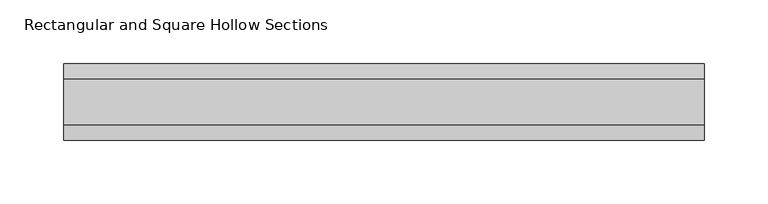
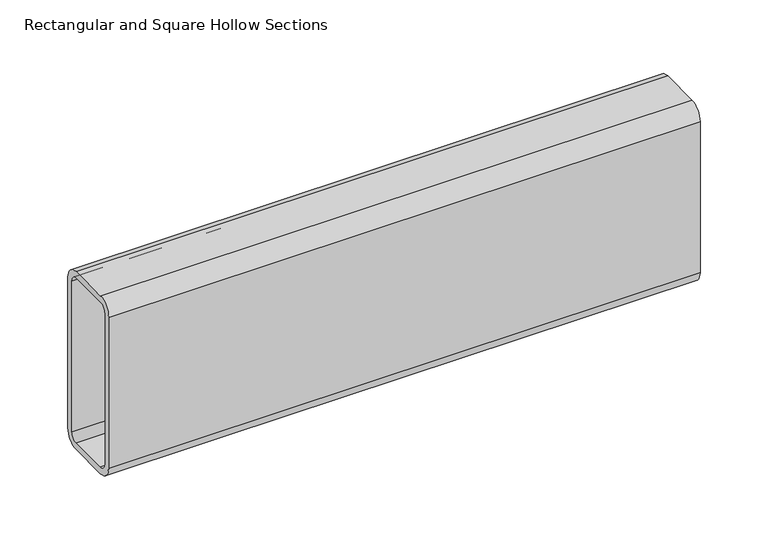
"""IFC4 building model written with IfcOpenShell, lengths in millimetres: beam geometry, Rectangular and Square Hollow Sections : TREC160x60x6."""

import ifcopenshell
import ifcopenshell.guid

model = None  # the IFC model being written
_history = None  # IfcOwnerHistory: only IFC2X3 demands one
_inside = {}  # id of a spatial element -> (the spatial element, [elements in it])
_under = {}  # id of a project, library or spatial element -> (it, [spatial elements below it])
_declared = {}  # id of a project -> (the project, [libraries it declares])
_typed = {}  # id of a type object -> (the type object, [elements of that type])
_made_of = {}  # id of a material, layer set ... -> (it, [elements and type objects made of it])


def new_model(schema):
    """Start an empty IFC model of exactly this schema.

    Asked for "IFC4X3", IfcOpenShell would pick the latest addendum, in which some entities
    have other attributes; the version numbers below select the first issue.
    IFC2X3 requires an IfcOwnerHistory on every rooted entity: one is made here for all.
    """
    global model, _history
    if schema == "IFC4X3":
        model = ifcopenshell.file(schema_version=(4, 3, 0, 0))
    else:
        model = ifcopenshell.file(schema=schema)
    _inside.clear()
    _under.clear()
    _declared.clear()
    _typed.clear()
    _made_of.clear()
    _history = None
    if model.schema == "IFC2X3":
        org = make("IfcOrganization", Name="unknown")
        user = make(
            "IfcPersonAndOrganization",
            ThePerson=make("IfcPerson", FamilyName="unknown"),
            TheOrganization=org,
        )
        app = make(
            "IfcApplication",
            ApplicationDeveloper=org,
            Version="unknown",
            ApplicationFullName="unknown",
            ApplicationIdentifier="unknown",
        )
        _history = make(
            "IfcOwnerHistory",
            OwningUser=user,
            OwningApplication=app,
            ChangeAction="ADDED",
            CreationDate=0,
        )
    return model


def make(cls, **values):
    """One entity of the class cls with the attributes given. An attribute that is None is left unset."""
    return model.create_entity(
        cls, **{name: value for name, value in values.items() if value is not None}
    )


def rooted(cls, **values):
    """An entity with a GlobalId (a new one), such as an element, a storey or a relation."""
    return make(cls, GlobalId=ifcopenshell.guid.new(), OwnerHistory=_history, **values)


def si_unit(unit_type, name, prefix=None):
    """IfcSIUnit, for example si_unit("LENGTHUNIT", "METRE", prefix="MILLI")."""
    return make("IfcSIUnit", UnitType=unit_type, Prefix=prefix, Name=name)


def assignment(units):
    """IfcUnitAssignment: the units of a project."""
    return None if units is None else make("IfcUnitAssignment", Units=units)


def point(xyz):
    """IfcCartesianPoint."""
    return None if xyz is None else make("IfcCartesianPoint", Coordinates=xyz)


def direction(xyz):
    """IfcDirection."""
    return None if xyz is None else make("IfcDirection", DirectionRatios=xyz)


def frame(location, z_axis=None, x_axis=None):
    """IfcAxis2Placement3D, a coordinate frame: its origin and axes. An axis left out is left unset."""
    return make(
        "IfcAxis2Placement3D",
        Location=point(location),
        Axis=direction(z_axis),
        RefDirection=direction(x_axis),
    )


def frame_2d(location, x_axis=None):
    """IfcAxis2Placement2D, a coordinate frame in the plane: its origin and x axis."""
    return make(
        "IfcAxis2Placement2D", Location=point(location), RefDirection=direction(x_axis)
    )


def origin():
    """The frame at (0, 0, 0) with its axes left unset."""
    return frame((0.0, 0.0, 0.0))


def place(relative_to, where):
    """IfcLocalPlacement: puts the frame where relative to a parent placement (None: the world)."""
    return make(
        "IfcLocalPlacement", PlacementRelTo=relative_to, RelativePlacement=where
    )


def context(
    kind, dimensions, precision=None, world=None, true_north=None, identifier=None
):
    """IfcGeometricRepresentationContext, for example the 3D "Model" context."""
    return make(
        "IfcGeometricRepresentationContext",
        ContextIdentifier=identifier,
        ContextType=kind,
        CoordinateSpaceDimension=dimensions,
        Precision=precision,
        WorldCoordinateSystem=world,
        TrueNorth=true_north,
    )


def project(units=None, contexts=None):
    """IfcProject with its units and contexts."""
    return rooted(
        "IfcProject",
        Name="project",
        RepresentationContexts=contexts,
        UnitsInContext=assignment(units),
    )


def spatial(cls, under=None, at=None, **own):
    """A site, building, storey or space (cls), placed at a placement, below another one or the project."""
    s = rooted(cls, ObjectPlacement=at, **own)
    if under is not None:
        _under.setdefault(under.id(), (under, []))[1].append(s)
    return s


def polyline(points):
    """IfcPolyline through the points."""
    return make("IfcPolyline", Points=[point(p) for p in points])


def circle_curve(where, radius):
    """IfcCircle in the frame where."""
    return make("IfcCircle", Position=where, Radius=radius)


def trimmed(basis, trim1, trim2, sense, master):
    """IfcTrimmedCurve: the piece of a basis curve between two trims."""
    return make(
        "IfcTrimmedCurve",
        BasisCurve=basis,
        Trim1=trim1,
        Trim2=trim2,
        SenseAgreement=sense,
        MasterRepresentation=master,
    )


def segment(curve, same_sense, transition):
    """IfcCompositeCurveSegment."""
    return make(
        "IfcCompositeCurveSegment",
        Transition=transition,
        SameSense=same_sense,
        ParentCurve=curve,
    )


def composite_curve(segments, self_intersect=None):
    """IfcCompositeCurve: segments joined end to end."""
    return make("IfcCompositeCurve", Segments=segments, SelfIntersect=self_intersect)


def outline(outer, holes=None, kind="AREA"):
    """IfcArbitraryClosedProfileDef: a profile drawn as a closed curve; with holes, ...WithVoids."""
    if holes is None:
        return make("IfcArbitraryClosedProfileDef", ProfileType=kind, OuterCurve=outer)
    return make(
        "IfcArbitraryProfileDefWithVoids",
        ProfileType=kind,
        OuterCurve=outer,
        InnerCurves=holes,
    )


def extrude(swept, where, along, depth):
    """IfcExtrudedAreaSolid: the profile swept, set in the frame where, extruded along a direction by depth."""
    return make(
        "IfcExtrudedAreaSolid",
        SweptArea=swept,
        Position=where,
        ExtrudedDirection=direction(along),
        Depth=depth,
    )


def shape(context_of_items, identifier, shape_type, items):
    """IfcShapeRepresentation: the items that make up one representation, for example the "Body"."""
    return make(
        "IfcShapeRepresentation",
        ContextOfItems=context_of_items,
        RepresentationIdentifier=identifier,
        RepresentationType=shape_type,
        Items=items,
    )


def source(mapping_origin, context_of_items, identifier, shape_type, items):
    """IfcRepresentationMap: a shape defined once, which mapped items show again and again."""
    return make(
        "IfcRepresentationMap",
        MappingOrigin=mapping_origin,
        MappedRepresentation=shape(context_of_items, identifier, shape_type, items),
    )


def transform(
    local_origin,
    x_axis=None,
    y_axis=None,
    z_axis=None,
    scale=None,
    scale2=None,
    scale3=None,
    uniform=True,
):
    """IfcCartesianTransformationOperator3D, or its non-uniform kind. x_axis, y_axis, z_axis: its Axis1, 2, 3."""
    if uniform:
        return make(
            "IfcCartesianTransformationOperator3D",
            Axis1=direction(x_axis),
            Axis2=direction(y_axis),
            LocalOrigin=point(local_origin),
            Scale=scale,
            Axis3=direction(z_axis),
        )
    return make(
        "IfcCartesianTransformationOperator3DnonUniform",
        Axis1=direction(x_axis),
        Axis2=direction(y_axis),
        LocalOrigin=point(local_origin),
        Scale=scale,
        Axis3=direction(z_axis),
        Scale2=scale2,
        Scale3=scale3,
    )


def mapped(mapping_source, mapping_target):
    """IfcMappedItem: shows the shape of a source again, moved by a transform."""
    return make(
        "IfcMappedItem", MappingSource=mapping_source, MappingTarget=mapping_target
    )


def made_of(thing, what):
    """Note that an element or type object is made of a material, layer set ...; save() writes the relation."""
    if what is not None:
        _made_of.setdefault(what.id(), (what, []))[1].append(thing)
    return thing


def element(
    cls,
    number,
    at=None,
    inside=None,
    cuts=None,
    type_object=None,
    material=None,
    context=None,
    identifier="Body",
    shape_type=None,
    held_by="IfcProductDefinitionShape",
    body=None,
    shapes=None,
    **own,
):
    """One element of the class cls, such as IfcWall. Its Tag is "e" and its number.

    at: its placement. inside: the storey or other place that contains it. cuts: it is an
    opening in that element (IfcRelVoidsElement). A single representation is given by context,
    identifier, shape_type and body (its items); several are given by shapes. held_by: the class
    of the entity that holds the representations. save() writes the other relations.
    """
    e = rooted(cls, Tag="e%d" % number, ObjectPlacement=at, **own)
    if body is not None:
        shapes = [shape(context, identifier, shape_type, body)]
    if shapes is not None:
        e.Representation = make(held_by, Representations=shapes)
    if inside is not None:
        _inside.setdefault(inside.id(), (inside, []))[1].append(e)
    if cuts is not None:
        rooted(
            "IfcRelVoidsElement", RelatingBuildingElement=cuts, RelatedOpeningElement=e
        )
    if type_object is not None:
        _typed.setdefault(type_object.id(), (type_object, []))[1].append(e)
    return made_of(e, material)


def aggregate(whole, parts):
    """IfcRelAggregates: a whole, such as a stair, and the parts it consists of."""
    return rooted("IfcRelAggregates", RelatingObject=whole, RelatedObjects=parts)


def save(model, path):
    """Write the relations noted so far, then the file.

    IfcRelAggregates (storeys below a building ...), IfcRelContainedInSpatialStructure (elements
    in a storey), IfcRelDefinesByType, IfcRelAssociatesMaterial and IfcRelDeclares: one each for
    every whole, place, type object, material and project.
    """
    for whole, parts in _under.values():
        aggregate(whole, parts)
    for where, things in _inside.values():
        rooted(
            "IfcRelContainedInSpatialStructure",
            RelatedElements=things,
            RelatingStructure=where,
        )
    for kind, things in _typed.values():
        rooted("IfcRelDefinesByType", RelatedObjects=things, RelatingType=kind)
    for what, things in _made_of.values():
        rooted("IfcRelAssociatesMaterial", RelatedObjects=things, RelatingMaterial=what)
    for by, libraries in _declared.values():
        rooted("IfcRelDeclares", RelatingContext=by, RelatedDefinitions=libraries)
    model.write(path)


def rectangular_and_square_hollow_sections_a32309e3(model_context):
    return source(origin(), model_context, "Body", "SweptSolid", [
        extrude(outline(composite_curve([segment(polyline([(30.0, 68.0), (30.0, -68.0)]), True, "CONTINUOUS"), segment(trimmed(circle_curve(frame_2d((18.0, -68.0)), 12.0), [point((30.0, -68.0))], [point((18.0, -80.0))], False, "CARTESIAN"), True, "CONTINUOUS"), segment(polyline([(18.0, -80.0), (-18.0, -80.0)]), True, "CONTINUOUS"), segment(trimmed(circle_curve(frame_2d((-18.0, -68.0)), 12.0), [point((-18.0, -80.0))], [point((-30.0, -68.0))], False, "CARTESIAN"), True, "CONTINUOUS"), segment(polyline([(-30.0, -68.0), (-30.0, 68.0)]), True, "CONTINUOUS"), segment(trimmed(circle_curve(frame_2d((-18.0, 68.0)), 12.0), [point((-30.0, 68.0))], [point((-18.0, 80.0))], False, "CARTESIAN"), True, "CONTINUOUS"), segment(polyline([(-18.0, 80.0), (18.0, 80.0)]), True, "CONTINUOUS"), segment(trimmed(circle_curve(frame_2d((18.0, 68.0)), 12.0), [point((18.0, 80.0))], [point((30.0, 68.0))], False, "CARTESIAN"), True, "CONTINUOUS")], self_intersect=False), holes=[composite_curve([segment(trimmed(circle_curve(frame_2d((-18.0, 68.0)), 6.0), [point((-18.0, 74.0))], [point((-24.0, 68.0))], True, "CARTESIAN"), True, "CONTINUOUS"), segment(polyline([(-24.0, 68.0), (-24.0, -68.0)]), True, "CONTINUOUS"), segment(trimmed(circle_curve(frame_2d((-18.0, -68.0)), 6.0), [point((-24.0, -68.0))], [point((-18.0, -74.0))], True, "CARTESIAN"), True, "CONTINUOUS"), segment(polyline([(-18.0, -74.0), (18.0, -74.0)]), True, "CONTINUOUS"), segment(trimmed(circle_curve(frame_2d((18.0, -68.0)), 6.0), [point((18.0, -74.0))], [point((24.0, -68.0))], True, "CARTESIAN"), True, "CONTINUOUS"), segment(polyline([(24.0, -68.0), (24.0, 68.0)]), True, "CONTINUOUS"), segment(trimmed(circle_curve(frame_2d((18.0, 68.0)), 6.0), [point((24.0, 68.0))], [point((18.0, 74.0))], True, "CARTESIAN"), True, "CONTINUOUS"), segment(polyline([(18.0, 74.0), (-18.0, 74.0)]), True, "CONTINUOUS")], self_intersect=False)]), frame((-252.0, 0.0, 0.0), z_axis=(1.0, 0.0, 0.0), x_axis=(0.0, 1.0, 0.0)), (0.0, 0.0, 1.0), 503.0),
    ])


if __name__ == "__main__":
    model = new_model("IFC4")
    model_context = context("Model", 3, world=origin())
    ifc_project = project(units=[si_unit("LENGTHUNIT", "METRE", prefix="MILLI")], contexts=[model_context])
    site = spatial("IfcSite", under=ifc_project)
    building = spatial("IfcBuilding", under=site)
    placement = place(None, origin())
    rectangular_and_square_hollow_sections_shape = rectangular_and_square_hollow_sections_a32309e3(model_context)
    element("IfcBeam", 1, ObjectType="Rectangular and Square Hollow Sections : TREC160x60x6", at=placement, inside=building, context=model_context, shape_type="MappedRepresentation", body=[
        mapped(rectangular_and_square_hollow_sections_shape, transform((0.0, 0.0, 0.0), x_axis=(1.0, 0.0, 0.0), y_axis=(0.0, 1.0, 0.0), z_axis=(0.0, 0.0, 1.0))),
    ])
    save(model, "model.ifc")
